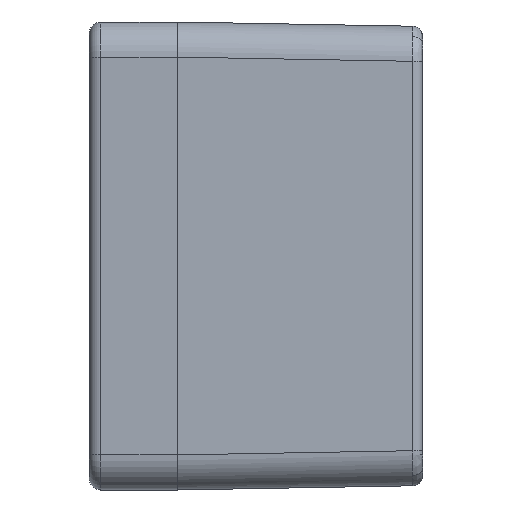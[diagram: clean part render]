
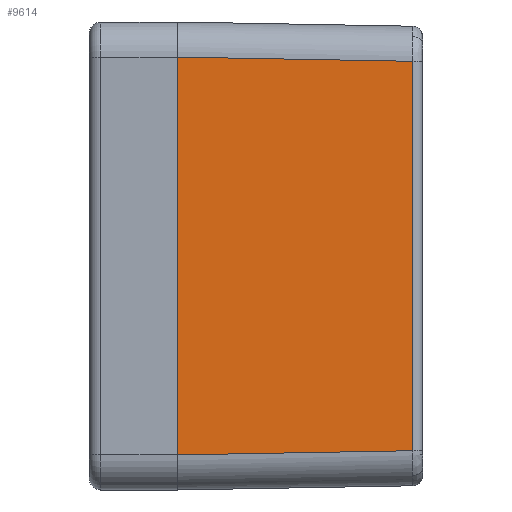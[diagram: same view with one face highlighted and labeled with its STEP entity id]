
A CAD part, left-side view. The second image highlights one B-rep face of the part: STEP entity #9614.
In plain terms, the highlighted planar face has unit normal (-1, -0.018, 0) as drawn and (1, -0.018, 0) by its records, which use the part's own axes.
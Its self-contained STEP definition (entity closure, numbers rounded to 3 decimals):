
#1906=CARTESIAN_POINT('',(125.,0.,34.001));
#1954=CARTESIAN_POINT('',(125.,0.,-34.001));
#1965=DIRECTION('',(0.,0.,1.));
#1966=VECTOR('',#1965,68.002);
#1967=CARTESIAN_POINT('',(125.,0.,-34.001));
#1968=LINE('',#1967,#1966);
#3324=DIRECTION('',(0.,0.,1.));
#3325=VECTOR('',#3324,66.565);
#3326=CARTESIAN_POINT('',(124.282,-40.232,
-33.283));
#3327=LINE('',#3326,#3325);
#3331=DIRECTION('',(0.018,1.,0.018));
#3332=VECTOR('',#3331,40.245);
#3333=CARTESIAN_POINT('',(124.282,-40.232,33.283));
#3334=LINE('',#3333,#3332);
#3338=DIRECTION('',(0.018,1.,-0.018));
#3339=VECTOR('',#3338,40.245);
#3340=CARTESIAN_POINT('',(124.282,-40.232,
-33.283));
#3341=LINE('',#3340,#3339);
#3356=CARTESIAN_POINT('',(124.282,-40.232,33.283));
#7630=VERTEX_POINT('',#1906);
#7633=VERTEX_POINT('',#1954);
#7660=VERTEX_POINT('',#3356);
#7663=CARTESIAN_POINT('',(124.282,-40.232,
-33.283));
#7664=VERTEX_POINT('',#7663);
#9602=CARTESIAN_POINT('',(124.625,-21.,0.));
#9603=DIRECTION('',(1.,-0.018,0.));
#9604=DIRECTION('',(0.018,1.,0.));
#9605=AXIS2_PLACEMENT_3D('',#9602,#9603,#9604);
#9606=PLANE('',#9605);
#9607=ORIENTED_EDGE('',*,*,#9596,.T.);
#9609=ORIENTED_EDGE('',*,*,#9608,.T.);
#9610=ORIENTED_EDGE('',*,*,#8283,.F.);
#9611=ORIENTED_EDGE('',*,*,#9537,.F.);
#9612=EDGE_LOOP('',(#9607,#9609,#9610,#9611));
#9613=FACE_OUTER_BOUND('',#9612,.F.);
#8283=EDGE_CURVE('',#7633,#7630,#1968,.T.);
#9537=EDGE_CURVE('',#7664,#7633,#3341,.T.);
#9596=EDGE_CURVE('',#7664,#7660,#3327,.T.);
#9608=EDGE_CURVE('',#7660,#7630,#3334,.T.);
#9614=ADVANCED_FACE('',(#9613),#9606,.T.);
